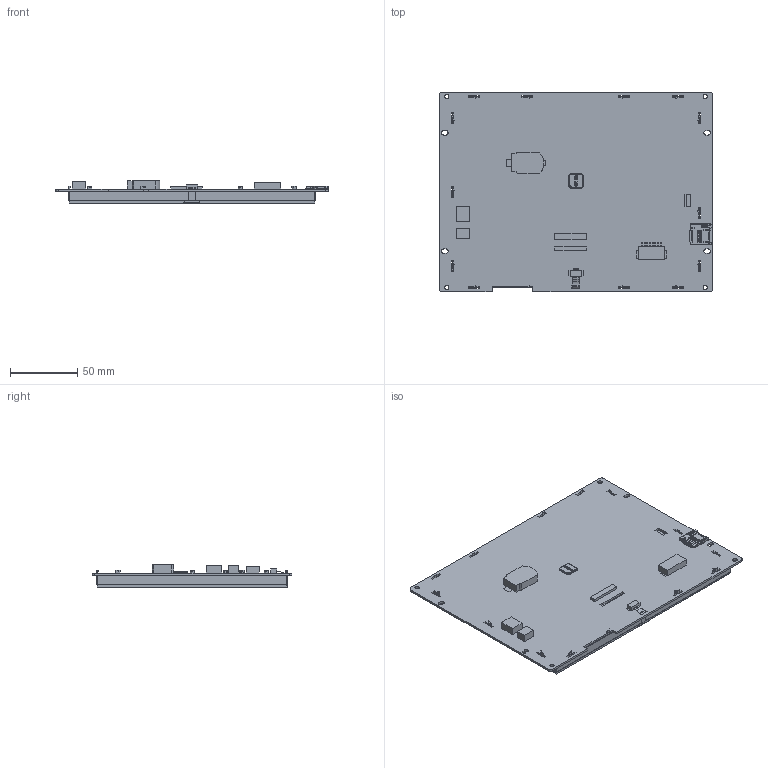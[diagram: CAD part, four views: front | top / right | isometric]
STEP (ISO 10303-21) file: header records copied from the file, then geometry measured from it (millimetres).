
FILE_DESCRIPTION(/* description */ (''),/* implementation_level */ '2;1');
FILE_NAME(/* name */ '',/* time_stamp */ '2023-04-11T10:20:49+08:00',/* author */ (''),/* organization */ (''),/* preprocessor_version */ 'ST-DEVELOPER v11',/* originating_system */ 'SIEMENS PLM Software NX 7.5',/* authorisation */ '');
FILE_SCHEMA (('AP203_CONFIGURATION_CONTROLLED_3D_DESIGN_OF_MECHANICAL_PARTS_AND_ASSEMBLIES_MIM_LF'));
Products named in the file (1): 3D-SDWb080YY97AT_stp
Bounding box: 203.02 x 148.8 x 16.42 mm (x, y, z)
Volume: 97852.4 mm3; surface area: 144356.6 mm2
Topology: 17 solids, 17 shells, 2421 faces, 6993 edges, 4595 vertices
Faces by surface type: plane 1939, cylinder 474, bspline 7, cone 1
Full cylindrical faces by diameter (mm): 3.2 x4
Entity records: 81272 total; most frequent: CARTESIAN_POINT 14513, ORIENTED_EDGE 13978, DIRECTION 12666, EDGE_CURVE 6989, LINE 5998, VECTOR 5998, VERTEX_POINT 4595, AXIS2_PLACEMENT_3D 3334
